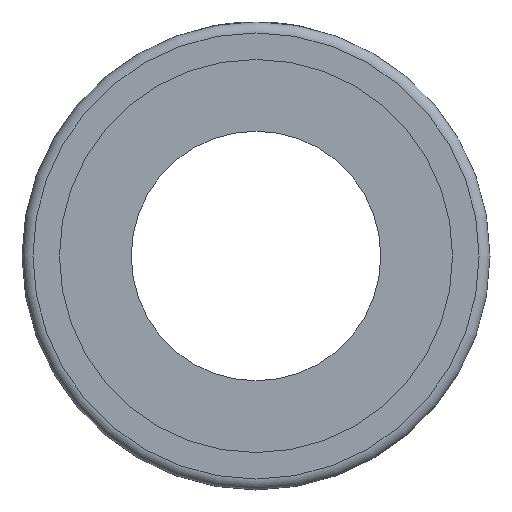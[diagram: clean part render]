
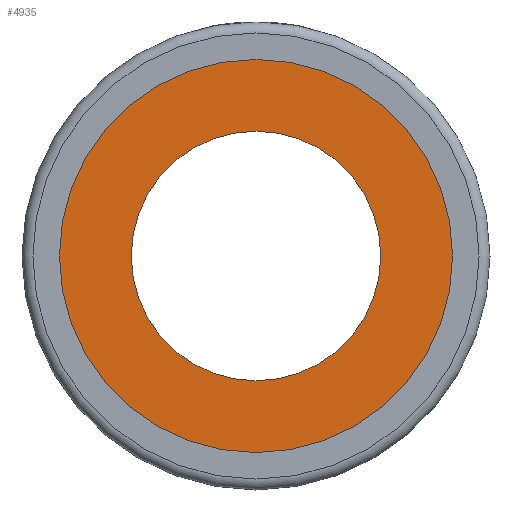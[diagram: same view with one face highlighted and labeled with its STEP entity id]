
A CAD part, left-side view. The second image highlights one B-rep face of the part: STEP entity #4935.
In plain terms, the highlighted planar face has unit normal (-1, 0, 0).
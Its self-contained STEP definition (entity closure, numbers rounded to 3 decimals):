
#1171=PLANE('',#5330);
#1573=ORIENTED_EDGE('',*,*,#3034,.F.);
#1574=ORIENTED_EDGE('',*,*,#3032,.F.);
#3032=EDGE_CURVE('',#3770,#3770,#4106,.T.);
#3034=EDGE_CURVE('',#3772,#3772,#4108,.T.);
#3770=VERTEX_POINT('',#7623);
#3772=VERTEX_POINT('',#7629);
#4106=CIRCLE('',#5327,6.3);
#4108=CIRCLE('',#5331,4.);
#4241=EDGE_LOOP('',(#1573));
#4242=EDGE_LOOP('',(#1574));
#4613=FACE_BOUND('',#4241,.T.);
#4614=FACE_BOUND('',#4242,.T.);
#4935=ADVANCED_FACE('',(#4613,#4614),#1171,.T.);
#5327=AXIS2_PLACEMENT_3D('',#7622,#5850,#5851);
#5330=AXIS2_PLACEMENT_3D('',#7627,#5856,#5857);
#5331=AXIS2_PLACEMENT_3D('',#7628,#5858,#5859);
#5850=DIRECTION('',(1.,0.,0.));
#5851=DIRECTION('',(0.,-1.,0.));
#5856=DIRECTION('',(-1.,0.,0.));
#5857=DIRECTION('',(0.,0.,1.));
#5858=DIRECTION('',(-1.,0.,0.));
#5859=DIRECTION('',(0.,0.,1.));
#7622=CARTESIAN_POINT('',(-8.33,0.,0.));
#7623=CARTESIAN_POINT('',(-8.33,-6.3,0.));
#7627=CARTESIAN_POINT('',(-8.33,0.,0.));
#7628=CARTESIAN_POINT('',(-8.33,0.,0.));
#7629=CARTESIAN_POINT('',(-8.33,0.,4.));
